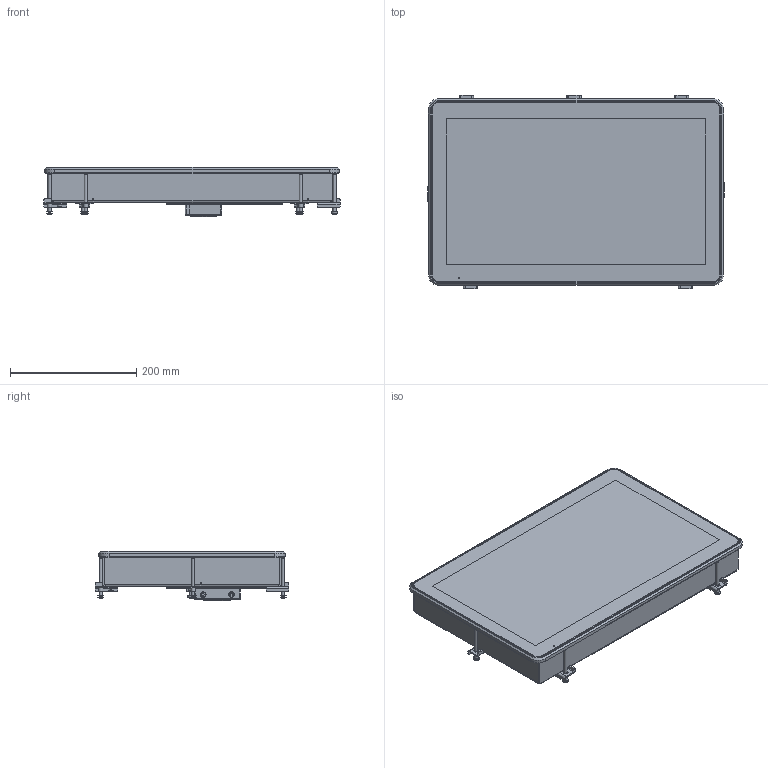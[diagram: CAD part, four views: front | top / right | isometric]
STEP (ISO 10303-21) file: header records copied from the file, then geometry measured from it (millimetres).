
FILE_DESCRIPTION(/* description */ (''),/* implementation_level */ '2;1');
FILE_NAME(/* name */ 'D:\Modelle vereinfacht\notion.D\18 Zoll\778-42998\778-42998_Extern.stp',/* time_stamp */ '2023-06-01T16:37:17+02:00',/* author */ ('Blessing'),/* organization */ (''),/* preprocessor_version */ 'ST-DEVELOPER v18.1',/* originating_system */ 'Autodesk Inventor 2021',/* authorisation */ '');
FILE_SCHEMA (('AUTOMOTIVE_DESIGN { 1 0 10303 214 3 1 1 }'));
Products named in the file (4): 778-42007-01_Extern; 778-42007-01_EXTERN_1; 778-90058-02_18 zoll; 778-90106-01_Extern
Assembly tree (3 placements, depth 2):
  778-42007-01_Extern
    778-42007-01_EXTERN_1
    778-90058-02_18 zoll
    778-90106-01_Extern
Bounding box: 468.5 x 306.6 x 77.85 mm (x, y, z)
Volume: 6034028.8 mm3; surface area: 848067.8 mm2
Topology: 9 solids, 45 shells, 5476 faces, 14400 edges, 9320 vertices
Faces by surface type: plane 2998, cylinder 1504, cone 451, bspline 450, sphere 47, torus 26
Full cylindrical faces by diameter (mm): 0.457 x1, 2.459 x10, 2.5 x2, 2.8 x2, 2.91 x2, 3 x22, 3.01 x2, 3.242 x12, 3.5 x18, 4 x18, 4.22 x10, 4.3 x17, 4.5 x16, 4.7 x2, 4.917 x4, 4.96 x2, 5 x31, 5.2 x1, 5.3 x1, 5.38 x14, 5.4 x14, 5.5 x8, 5.54 x16, 5.7 x8, 5.8 x4, 6 x7, 6.6 x7, 7 x7, 7.11 x7, 7.2 x7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
Entity records: 187002 total; most frequent: CARTESIAN_POINT 49583, ORIENTED_EDGE 28736, DIRECTION 24937, EDGE_CURVE 14368, VERTEX_POINT 9344, LINE 9207, VECTOR 9207, AXIS2_PLACEMENT_3D 7865
